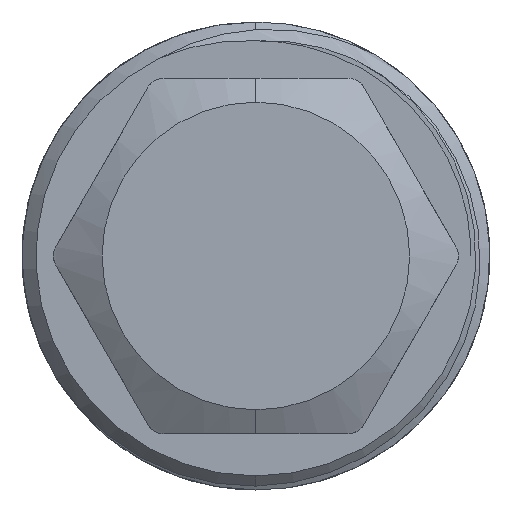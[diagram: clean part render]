
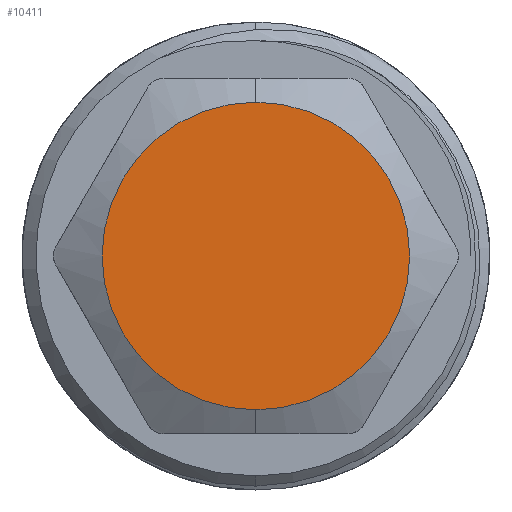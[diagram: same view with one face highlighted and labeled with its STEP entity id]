
A CAD part, left-side view. The second image highlights one B-rep face of the part: STEP entity #10411.
In plain terms, the highlighted planar face has unit normal (-1, 0, 0).
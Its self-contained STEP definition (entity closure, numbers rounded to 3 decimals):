
#24 = ORIENTED_EDGE ( 'NONE', *, *, #2965, .F. ) ;
#149 = CIRCLE ( 'NONE', #629, 8.217 ) ;
#207 = VERTEX_POINT ( 'NONE', #2982 ) ;
#629 = AXIS2_PLACEMENT_3D ( 'NONE', #8405, #3601, #9228 ) ;
#980 = EDGE_LOOP ( 'NONE', ( #3147, #24 ) ) ;
#1808 = CIRCLE ( 'NONE', #8237, 8.217 ) ;
#1831 = CARTESIAN_POINT ( 'NONE',  ( -50., 0., 0. ) ) ;
#2890 = CARTESIAN_POINT ( 'NONE',  ( -50., 0., 0. ) ) ;
#2965 = EDGE_CURVE ( 'NONE', #207, #4862, #149, .T. ) ;
#2982 = CARTESIAN_POINT ( 'NONE',  ( -50., 0., 8.217 ) ) ;
#3147 = ORIENTED_EDGE ( 'NONE', *, *, #6844, .F. ) ;
#3584 = DIRECTION ( 'NONE',  ( 0., 0., -1. ) ) ;
#3601 = DIRECTION ( 'NONE',  ( 1., 0., 0. ) ) ;
#3734 = DIRECTION ( 'NONE',  ( 0., 0., -1. ) ) ;
#4862 = VERTEX_POINT ( 'NONE', #6333 ) ;
#6333 = CARTESIAN_POINT ( 'NONE',  ( -50., 0., -8.217 ) ) ;
#6844 = EDGE_CURVE ( 'NONE', #4862, #207, #1808, .T. ) ;
#7566 = PLANE ( 'NONE',  #10140 ) ;
#8237 = AXIS2_PLACEMENT_3D ( 'NONE', #2890, #8542, #3734 ) ;
#8390 = DIRECTION ( 'NONE',  ( 1., 0., 0. ) ) ;
#8405 = CARTESIAN_POINT ( 'NONE',  ( -50., 0., 0. ) ) ;
#8542 = DIRECTION ( 'NONE',  ( 1., 0., 0. ) ) ;
#9228 = DIRECTION ( 'NONE',  ( 0., 0., -1. ) ) ;
#9597 = FACE_OUTER_BOUND ( 'NONE', #980, .T. ) ;
#10140 = AXIS2_PLACEMENT_3D ( 'NONE', #1831, #8390, #3584 ) ;
#10411 = ADVANCED_FACE ( 'NONE', ( #9597 ), #7566, .F. ) ;
